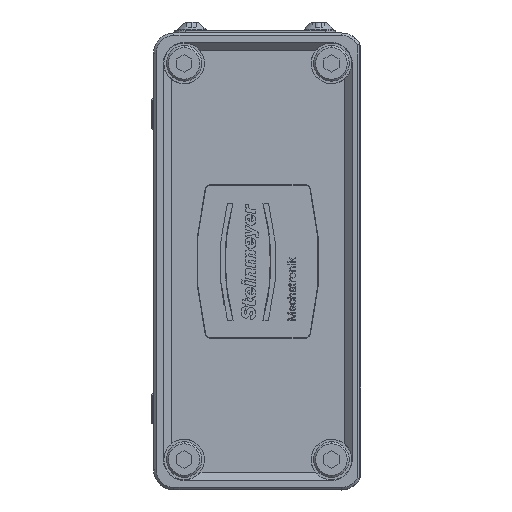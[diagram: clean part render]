
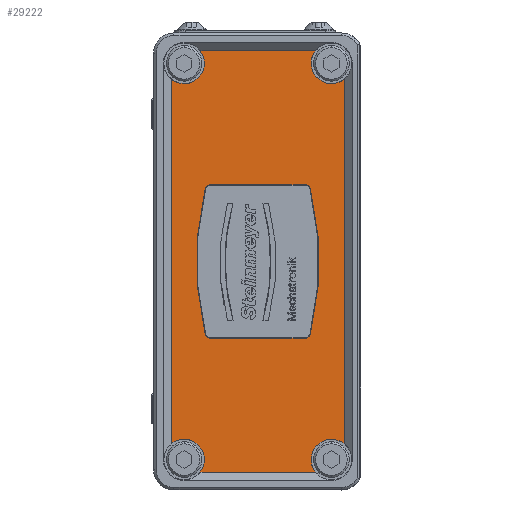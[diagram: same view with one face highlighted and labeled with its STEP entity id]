
A CAD part, left-side view. The second image highlights one B-rep face of the part: STEP entity #29222.
In plain terms, the highlighted planar face has unit normal (-1, 0, 0) as drawn and (0, 0, 1) by its records, which use the part's own axes.
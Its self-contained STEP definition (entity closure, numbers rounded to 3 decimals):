
#4789=CARTESIAN_POINT('',(-39.,6.,157.));
#4790=DIRECTION('',(0.,0.,1.));
#4791=DIRECTION('',(0.781,-0.625,0.));
#4792=AXIS2_PLACEMENT_3D('',#4789,#4790,#4791);
#4797=CARTESIAN_POINT('',(-39.,6.,157.));
#4798=DIRECTION('',(0.,0.,1.));
#4799=DIRECTION('',(0.,1.,0.));
#4800=AXIS2_PLACEMENT_3D('',#4797,#4798,#4799);
#4805=DIRECTION('',(0.,1.,0.));
#4806=VECTOR('',#4805,22.755);
#4807=CARTESIAN_POINT('',(-41.5,9.122,157.));
#4808=LINE('1429',#4807,#4806);
#4812=CARTESIAN_POINT('',(-39.,35.,157.));
#4813=DIRECTION('',(0.,0.,1.));
#4814=DIRECTION('',(-0.625,-0.781,0.));
#4815=AXIS2_PLACEMENT_3D('',#4812,#4813,#4814);
#4820=CARTESIAN_POINT('',(-39.,35.,157.));
#4821=DIRECTION('',(0.,0.,1.));
#4822=DIRECTION('',(0.,-1.,0.));
#4823=AXIS2_PLACEMENT_3D('',#4820,#4821,#4822);
#4828=DIRECTION('',(1.,0.,0.));
#4829=VECTOR('',#4828,71.755);
#4830=CARTESIAN_POINT('',(-35.878,37.5,157.));
#4831=LINE('1432',#4830,#4829);
#4835=CARTESIAN_POINT('',(39.,35.,157.));
#4836=DIRECTION('',(0.,0.,1.));
#4837=DIRECTION('',(-0.781,0.625,0.));
#4838=AXIS2_PLACEMENT_3D('',#4835,#4836,#4837);
#4843=CARTESIAN_POINT('',(39.,35.,157.));
#4844=DIRECTION('',(0.,0.,1.));
#4845=DIRECTION('',(0.,-1.,0.));
#4846=AXIS2_PLACEMENT_3D('',#4843,#4844,#4845);
#4851=DIRECTION('',(0.,-1.,0.));
#4852=VECTOR('',#4851,22.755);
#4853=CARTESIAN_POINT('',(41.5,31.878,157.));
#4854=LINE('1434',#4853,#4852);
#4858=CARTESIAN_POINT('',(39.,6.,157.));
#4859=DIRECTION('',(0.,0.,1.));
#4860=DIRECTION('',(0.625,0.781,0.));
#4861=AXIS2_PLACEMENT_3D('',#4858,#4859,#4860);
#4866=CARTESIAN_POINT('',(39.,6.,157.));
#4867=DIRECTION('',(0.,0.,1.));
#4868=DIRECTION('',(0.,1.,0.));
#4869=AXIS2_PLACEMENT_3D('',#4866,#4867,#4868);
#4874=DIRECTION('',(-1.,0.,0.));
#4875=VECTOR('',#4874,71.755);
#4876=CARTESIAN_POINT('',(35.878,3.5,157.));
#4877=LINE('1437',#4876,#4875);
#4881=CARTESIAN_POINT('',(14.,29.815,157.));
#4882=DIRECTION('',(0.,0.,1.));
#4883=DIRECTION('',(1.,0.,0.));
#4884=AXIS2_PLACEMENT_3D('',#4881,#4882,#4883);
#4889=CARTESIAN_POINT('',(0.,-27.5,157.));
#4890=DIRECTION('',(0.,0.,1.));
#4891=DIRECTION('',(0.237,0.971,0.));
#4892=AXIS2_PLACEMENT_3D('',#4889,#4890,#4891);
#4897=CARTESIAN_POINT('',(-14.,29.815,157.));
#4898=DIRECTION('',(0.,0.,1.));
#4899=DIRECTION('',(-0.237,0.971,0.));
#4900=AXIS2_PLACEMENT_3D('',#4897,#4898,#4899);
#4905=CARTESIAN_POINT('',(-14.,11.185,157.));
#4906=DIRECTION('',(0.,0.,1.));
#4907=DIRECTION('',(-1.,0.,0.));
#4908=AXIS2_PLACEMENT_3D('',#4905,#4906,#4907);
#4913=CARTESIAN_POINT('',(0.,68.5,157.));
#4914=DIRECTION('',(0.,0.,1.));
#4915=DIRECTION('',(-0.237,-0.971,0.));
#4916=AXIS2_PLACEMENT_3D('',#4913,#4914,#4915);
#4921=CARTESIAN_POINT('',(14.,11.185,157.));
#4922=DIRECTION('',(0.,0.,1.));
#4923=DIRECTION('',(0.237,-0.971,0.));
#4924=AXIS2_PLACEMENT_3D('',#4921,#4922,#4923);
#6077=DIRECTION('',(0.,-1.,0.));
#6078=VECTOR('',#6077,18.63);
#6079=CARTESIAN_POINT('',(15.1,29.815,157.));
#6080=LINE('1445',#6079,#6078);
#6112=DIRECTION('',(0.,1.,0.));
#6113=VECTOR('',#6112,18.63);
#6114=CARTESIAN_POINT('',(-15.1,11.185,157.));
#6115=LINE('1441',#6114,#6113);
#22564=CARTESIAN_POINT('',(39.,31.,157.));
#22565=CARTESIAN_POINT('',(41.5,31.878,157.));
#22566=VERTEX_POINT('',#22564);
#22567=VERTEX_POINT('',#22565);
#22573=CARTESIAN_POINT('',(-35.878,3.5,157.));
#22574=CARTESIAN_POINT('',(-39.,10.,157.));
#22575=VERTEX_POINT('',#22573);
#22576=VERTEX_POINT('',#22574);
#22577=CARTESIAN_POINT('',(-41.5,9.122,157.));
#22578=VERTEX_POINT('',#22577);
#22579=CARTESIAN_POINT('',(-41.5,31.878,157.));
#22580=VERTEX_POINT('',#22579);
#22581=CARTESIAN_POINT('',(-39.,31.,157.));
#22582=VERTEX_POINT('',#22581);
#22583=CARTESIAN_POINT('',(-35.878,37.5,157.));
#22584=VERTEX_POINT('',#22583);
#22585=CARTESIAN_POINT('',(35.878,37.5,157.));
#22586=VERTEX_POINT('',#22585);
#22587=CARTESIAN_POINT('',(41.5,9.122,157.));
#22588=VERTEX_POINT('',#22587);
#22589=CARTESIAN_POINT('',(39.,10.,157.));
#22590=VERTEX_POINT('',#22589);
#22591=CARTESIAN_POINT('',(35.878,3.5,157.));
#22592=VERTEX_POINT('',#22591);
#22593=CARTESIAN_POINT('',(15.1,29.815,157.));
#22594=CARTESIAN_POINT('',(14.261,30.884,157.));
#22595=VERTEX_POINT('',#22593);
#22596=VERTEX_POINT('',#22594);
#22597=CARTESIAN_POINT('',(-14.261,30.884,157.));
#22598=VERTEX_POINT('',#22597);
#22599=CARTESIAN_POINT('',(-15.1,29.815,157.));
#22600=VERTEX_POINT('',#22599);
#22601=CARTESIAN_POINT('',(-15.1,11.185,157.));
#22602=VERTEX_POINT('',#22601);
#22603=CARTESIAN_POINT('',(-14.261,10.116,157.));
#22604=VERTEX_POINT('',#22603);
#22605=CARTESIAN_POINT('',(14.261,10.116,157.));
#22606=VERTEX_POINT('',#22605);
#22607=CARTESIAN_POINT('',(15.1,11.185,157.));
#22608=VERTEX_POINT('',#22607);
#29174=CARTESIAN_POINT('',(45.,20.5,157.));
#29175=DIRECTION('',(0.,0.,1.));
#29176=DIRECTION('',(1.,0.,0.));
#29177=AXIS2_PLACEMENT_3D('',#29174,#29175,#29176);
#29178=PLANE('276',#29177);
#29180=ORIENTED_EDGE('1427',*,*,#29179,.T.);
#29182=ORIENTED_EDGE('1428',*,*,#29181,.T.);
#29184=ORIENTED_EDGE('1429',*,*,#29183,.T.);
#29186=ORIENTED_EDGE('1430',*,*,#29185,.T.);
#29188=ORIENTED_EDGE('1431',*,*,#29187,.T.);
#29190=ORIENTED_EDGE('1432',*,*,#29189,.T.);
#29192=ORIENTED_EDGE('1433',*,*,#29191,.T.);
#29193=ORIENTED_EDGE('1421',*,*,#29158,.T.);
#29195=ORIENTED_EDGE('1434',*,*,#29194,.T.);
#29197=ORIENTED_EDGE('1435',*,*,#29196,.T.);
#29199=ORIENTED_EDGE('1436',*,*,#29198,.T.);
#29201=ORIENTED_EDGE('1437',*,*,#29200,.T.);
#29202=EDGE_LOOP('276',(#29180,#29182,#29184,#29186,#29188,#29190,#29192,#29193,
#29195,#29197,#29199,#29201));
#29203=FACE_OUTER_BOUND('276',#29202,.F.);
#29205=ORIENTED_EDGE('1438',*,*,#29204,.T.);
#29207=ORIENTED_EDGE('1439',*,*,#29206,.T.);
#29209=ORIENTED_EDGE('1440',*,*,#29208,.T.);
#29211=ORIENTED_EDGE('1441',*,*,#29210,.F.);
#29213=ORIENTED_EDGE('1442',*,*,#29212,.T.);
#29215=ORIENTED_EDGE('1443',*,*,#29214,.T.);
#29217=ORIENTED_EDGE('1444',*,*,#29216,.T.);
#29219=ORIENTED_EDGE('1445',*,*,#29218,.F.);
#29220=EDGE_LOOP('276',(#29205,#29207,#29209,#29211,#29213,#29215,#29217,
#29219));
#29221=FACE_BOUND('276',#29220,.F.);
#4793=CIRCLE('1427',#4792,4.);
#4801=CIRCLE('1428',#4800,4.);
#4816=CIRCLE('1430',#4815,4.);
#4824=CIRCLE('1431',#4823,4.);
#4839=CIRCLE('1433',#4838,4.);
#4847=CIRCLE('1421',#4846,4.);
#4862=CIRCLE('1435',#4861,4.);
#4870=CIRCLE('1436',#4869,4.);
#4885=CIRCLE('1438',#4884,1.1);
#4893=CIRCLE('1439',#4892,60.1);
#4901=CIRCLE('1440',#4900,1.1);
#4909=CIRCLE('1442',#4908,1.1);
#4917=CIRCLE('1443',#4916,60.1);
#4925=CIRCLE('1444',#4924,1.1);
#29158=EDGE_CURVE('1421',#22566,#22567,#4847,.T.);
#29179=EDGE_CURVE('1427',#22575,#22576,#4793,.T.);
#29181=EDGE_CURVE('1428',#22576,#22578,#4801,.T.);
#29183=EDGE_CURVE('1429',#22578,#22580,#4808,.T.);
#29185=EDGE_CURVE('1430',#22580,#22582,#4816,.T.);
#29187=EDGE_CURVE('1431',#22582,#22584,#4824,.T.);
#29189=EDGE_CURVE('1432',#22584,#22586,#4831,.T.);
#29191=EDGE_CURVE('1433',#22586,#22566,#4839,.T.);
#29194=EDGE_CURVE('1434',#22567,#22588,#4854,.T.);
#29196=EDGE_CURVE('1435',#22588,#22590,#4862,.T.);
#29198=EDGE_CURVE('1436',#22590,#22592,#4870,.T.);
#29200=EDGE_CURVE('1437',#22592,#22575,#4877,.T.);
#29204=EDGE_CURVE('1438',#22595,#22596,#4885,.T.);
#29206=EDGE_CURVE('1439',#22596,#22598,#4893,.T.);
#29208=EDGE_CURVE('1440',#22598,#22600,#4901,.T.);
#29210=EDGE_CURVE('1441',#22602,#22600,#6115,.T.);
#29212=EDGE_CURVE('1442',#22602,#22604,#4909,.T.);
#29214=EDGE_CURVE('1443',#22604,#22606,#4917,.T.);
#29216=EDGE_CURVE('1444',#22606,#22608,#4925,.T.);
#29218=EDGE_CURVE('1445',#22595,#22608,#6080,.T.);
#29222=ADVANCED_FACE('276',(#29203,#29221),#29178,.T.);
